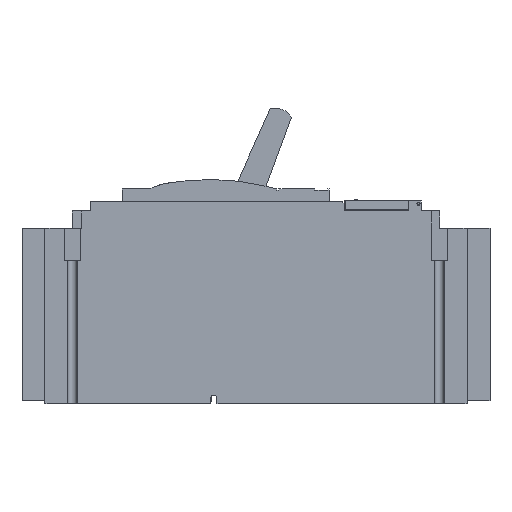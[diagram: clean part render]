
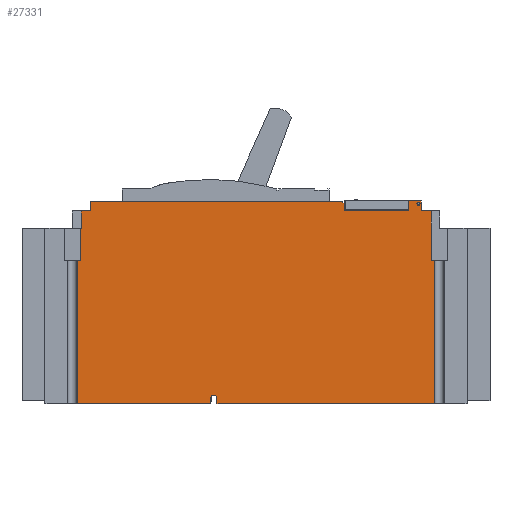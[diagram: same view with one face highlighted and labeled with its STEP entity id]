
A CAD part, left-side view. The second image highlights one B-rep face of the part: STEP entity #27331.
In plain terms, the highlighted planar face has unit normal (-1, 0, 0).
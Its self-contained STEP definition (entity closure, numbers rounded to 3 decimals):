
#65=CARTESIAN_POINT('',(0.,38.957,109.065));
#66=DIRECTION('',(1.,0.,0.));
#67=DIRECTION('',(0.,-1.,0.));
#68=AXIS2_PLACEMENT_3D('',#65,#66,#67);
#74=CARTESIAN_POINT('',(0.,38.957,109.065));
#75=DIRECTION('',(1.,0.,0.));
#76=DIRECTION('',(0.,1.,0.));
#77=AXIS2_PLACEMENT_3D('',#74,#75,#76);
#152=DIRECTION('',(0.,-1.,0.));
#153=VECTOR('',#152,35.293);
#154=CARTESIAN_POINT('',(0.,79.5,105.115));
#155=LINE('',#154,#153);
#159=DIRECTION('',(0.,0.,-1.));
#160=VECTOR('',#159,5.4);
#161=CARTESIAN_POINT('',(0.,44.207,110.515));
#162=LINE('',#161,#160);
#166=DIRECTION('',(0.,1.,0.));
#167=VECTOR('',#166,6.7);
#168=CARTESIAN_POINT('',(0.,37.507,110.515));
#169=LINE('',#168,#167);
#173=DIRECTION('',(0.,0.,1.));
#174=VECTOR('',#173,5.4);
#175=CARTESIAN_POINT('',(0.,37.507,105.115));
#176=LINE('',#175,#174);
#180=DIRECTION('',(0.,-1.,0.));
#181=VECTOR('',#180,5.5);
#182=CARTESIAN_POINT('',(0.,37.507,105.115));
#183=LINE('',#182,#181);
#187=DIRECTION('',(0.,0.,-1.));
#188=VECTOR('',#187,27.);
#189=CARTESIAN_POINT('',(0.,32.007,105.115));
#190=LINE('',#189,#188);
#194=DIRECTION('',(0.,-1.,0.));
#195=VECTOR('',#194,1.962);
#196=CARTESIAN_POINT('',(0.,32.007,78.115));
#197=LINE('',#196,#195);
#201=DIRECTION('',(0.,0.,-1.));
#202=VECTOR('',#201,78.05);
#203=CARTESIAN_POINT('',(0.,30.046,78.115));
#204=LINE('',#203,#202);
#208=DIRECTION('',(0.,1.,0.));
#209=VECTOR('',#208,118.704);
#210=CARTESIAN_POINT('',(0.,30.046,0.065));
#211=LINE('',#210,#209);
#215=DIRECTION('',(0.,0.,1.));
#216=VECTOR('',#215,2.918);
#217=CARTESIAN_POINT('',(0.,148.75,0.065));
#218=LINE('',#217,#216);
#222=DIRECTION('',(0.,0.,1.));
#223=VECTOR('',#222,2.918);
#224=CARTESIAN_POINT('',(0.,152.25,0.065));
#225=LINE('',#224,#223);
#229=DIRECTION('',(0.,1.,0.));
#230=VECTOR('',#229,72.704);
#231=CARTESIAN_POINT('',(0.,152.25,0.065));
#232=LINE('',#231,#230);
#236=DIRECTION('',(0.,0.,1.));
#237=VECTOR('',#236,78.);
#238=CARTESIAN_POINT('',(0.,224.954,0.065));
#239=LINE('',#238,#237);
#243=DIRECTION('',(0.,-1.,0.));
#244=VECTOR('',#243,1.954);
#245=CARTESIAN_POINT('',(0.,224.954,78.065));
#246=LINE('',#245,#244);
#250=DIRECTION('',(0.,0.,1.));
#251=VECTOR('',#250,17.5);
#252=CARTESIAN_POINT('',(0.,223.,78.065));
#253=LINE('',#252,#251);
#257=DIRECTION('',(0.,-1.,0.));
#258=VECTOR('',#257,0.25);
#259=CARTESIAN_POINT('',(0.,223.,95.565));
#260=LINE('',#259,#258);
#264=DIRECTION('',(0.,0.,-1.));
#265=VECTOR('',#264,9.5);
#266=CARTESIAN_POINT('',(0.,222.75,105.065));
#267=LINE('',#266,#265);
#271=DIRECTION('',(0.,-1.,0.));
#272=VECTOR('',#271,5.25);
#273=CARTESIAN_POINT('',(0.,222.75,105.065));
#274=LINE('',#273,#272);
#278=DIRECTION('',(0.,0.,1.));
#279=VECTOR('',#278,5.);
#280=CARTESIAN_POINT('',(0.,217.5,105.065));
#281=LINE('',#280,#279);
#285=DIRECTION('',(0.,-1.,0.));
#286=VECTOR('',#285,137.4);
#287=CARTESIAN_POINT('',(0.,217.5,110.065));
#288=LINE('',#287,#286);
#292=DIRECTION('',(0.,0.,-1.));
#293=VECTOR('',#292,0.6);
#294=CARTESIAN_POINT('',(0.,80.1,110.065));
#295=LINE('',#294,#293);
#299=DIRECTION('',(0.,-1.,0.));
#300=VECTOR('',#299,0.6);
#301=CARTESIAN_POINT('',(0.,80.1,109.465));
#302=LINE('',#301,#300);
#306=DIRECTION('',(0.,0.,-1.));
#307=VECTOR('',#306,4.35);
#308=CARTESIAN_POINT('',(0.,79.5,109.465));
#309=LINE('',#308,#307);
#11082=CARTESIAN_POINT('',(0.,150.5,2.983));
#11083=DIRECTION('',(1.,0.,0.));
#11084=DIRECTION('',(0.,1.,0.));
#11085=AXIS2_PLACEMENT_3D('',#11082,#11083,#11084);
#23030=CARTESIAN_POINT('',(0.,217.5,105.065));
#23031=CARTESIAN_POINT('',(0.,217.5,110.065));
#23032=VERTEX_POINT('',#23030);
#23033=VERTEX_POINT('',#23031);
#23034=CARTESIAN_POINT('',(0.,80.1,110.065));
#23035=VERTEX_POINT('',#23034);
#23036=CARTESIAN_POINT('',(0.,80.1,109.465));
#23037=VERTEX_POINT('',#23036);
#23038=CARTESIAN_POINT('',(0.,79.5,109.465));
#23039=VERTEX_POINT('',#23038);
#23040=CARTESIAN_POINT('',(0.,79.5,105.115));
#23041=VERTEX_POINT('',#23040);
#23931=CARTESIAN_POINT('',(0.,224.954,0.065));
#23932=VERTEX_POINT('',#23931);
#23963=CARTESIAN_POINT('',(0.,30.046,0.065));
#23964=VERTEX_POINT('',#23963);
#23979=CARTESIAN_POINT('',(0.,224.954,78.065));
#23980=CARTESIAN_POINT('',(0.,223.,78.065));
#23981=VERTEX_POINT('',#23979);
#23982=VERTEX_POINT('',#23980);
#23985=CARTESIAN_POINT('',(0.,32.007,78.115));
#23986=CARTESIAN_POINT('',(0.,30.046,78.115));
#23987=VERTEX_POINT('',#23985);
#23988=VERTEX_POINT('',#23986);
#23995=CARTESIAN_POINT('',(0.,32.007,105.115));
#23996=VERTEX_POINT('',#23995);
#24007=CARTESIAN_POINT('',(0.,222.75,105.065));
#24008=CARTESIAN_POINT('',(0.,222.75,95.565));
#24009=VERTEX_POINT('',#24007);
#24010=VERTEX_POINT('',#24008);
#24011=CARTESIAN_POINT('',(0.,223.,95.565));
#24012=VERTEX_POINT('',#24011);
#25885=CARTESIAN_POINT('',(0.,152.25,2.983));
#25887=VERTEX_POINT('',#25885);
#25889=CARTESIAN_POINT('',(0.,148.75,2.983));
#25891=VERTEX_POINT('',#25889);
#25893=CARTESIAN_POINT('',(0.,148.75,0.065));
#25894=VERTEX_POINT('',#25893);
#25895=CARTESIAN_POINT('',(0.,152.25,0.065));
#25896=VERTEX_POINT('',#25895);
#25901=CARTESIAN_POINT('',(0.,37.507,110.515));
#25902=CARTESIAN_POINT('',(0.,44.207,110.515));
#25903=VERTEX_POINT('',#25901);
#25904=VERTEX_POINT('',#25902);
#25905=CARTESIAN_POINT('',(0.,38.132,109.065));
#25906=CARTESIAN_POINT('',(0.,39.782,109.065));
#25907=VERTEX_POINT('',#25905);
#25908=VERTEX_POINT('',#25906);
#25909=CARTESIAN_POINT('',(0.,44.207,105.115));
#25910=VERTEX_POINT('',#25909);
#25911=CARTESIAN_POINT('',(0.,37.507,105.115));
#25912=VERTEX_POINT('',#25911);
#27270=CARTESIAN_POINT('',(0.,0.,0.));
#27271=DIRECTION('',(1.,0.,0.));
#27272=DIRECTION('',(0.,0.,-1.));
#27273=AXIS2_PLACEMENT_3D('',#27270,#27271,#27272);
#27274=PLANE('',#27273);
#27276=ORIENTED_EDGE('',*,*,#27275,.T.);
#27278=ORIENTED_EDGE('',*,*,#27277,.F.);
#27280=ORIENTED_EDGE('',*,*,#27279,.F.);
#27282=ORIENTED_EDGE('',*,*,#27281,.F.);
#27284=ORIENTED_EDGE('',*,*,#27283,.T.);
#27286=ORIENTED_EDGE('',*,*,#27285,.T.);
#27288=ORIENTED_EDGE('',*,*,#27287,.T.);
#27290=ORIENTED_EDGE('',*,*,#27289,.T.);
#27292=ORIENTED_EDGE('',*,*,#27291,.T.);
#27294=ORIENTED_EDGE('',*,*,#27293,.T.);
#27296=ORIENTED_EDGE('',*,*,#27295,.F.);
#27298=ORIENTED_EDGE('',*,*,#27297,.F.);
#27300=ORIENTED_EDGE('',*,*,#27299,.T.);
#27302=ORIENTED_EDGE('',*,*,#27301,.T.);
#27304=ORIENTED_EDGE('',*,*,#27303,.T.);
#27306=ORIENTED_EDGE('',*,*,#27305,.T.);
#27308=ORIENTED_EDGE('',*,*,#27307,.T.);
#27310=ORIENTED_EDGE('',*,*,#27309,.F.);
#27312=ORIENTED_EDGE('',*,*,#27311,.T.);
#27314=ORIENTED_EDGE('',*,*,#27313,.T.);
#27316=ORIENTED_EDGE('',*,*,#27315,.T.);
#27318=ORIENTED_EDGE('',*,*,#27317,.T.);
#27320=ORIENTED_EDGE('',*,*,#27319,.T.);
#27322=ORIENTED_EDGE('',*,*,#27321,.T.);
#27323=EDGE_LOOP('',(#27276,#27278,#27280,#27282,#27284,#27286,#27288,#27290,
#27292,#27294,#27296,#27298,#27300,#27302,#27304,#27306,#27308,#27310,#27312,
#27314,#27316,#27318,#27320,#27322));
#27324=FACE_OUTER_BOUND('',#27323,.F.);
#27326=ORIENTED_EDGE('',*,*,#27325,.F.);
#27328=ORIENTED_EDGE('',*,*,#27327,.F.);
#27329=EDGE_LOOP('',(#27326,#27328));
#27330=FACE_BOUND('',#27329,.F.);
#69=CIRCLE('',#68,0.825);
#78=CIRCLE('',#77,0.825);
#11086=CIRCLE('',#11085,1.75);
#27275=EDGE_CURVE('',#23041,#25910,#155,.T.);
#27277=EDGE_CURVE('',#25904,#25910,#162,.T.);
#27279=EDGE_CURVE('',#25903,#25904,#169,.T.);
#27281=EDGE_CURVE('',#25912,#25903,#176,.T.);
#27283=EDGE_CURVE('',#25912,#23996,#183,.T.);
#27285=EDGE_CURVE('',#23996,#23987,#190,.T.);
#27287=EDGE_CURVE('',#23987,#23988,#197,.T.);
#27289=EDGE_CURVE('',#23988,#23964,#204,.T.);
#27291=EDGE_CURVE('',#23964,#25894,#211,.T.);
#27293=EDGE_CURVE('',#25894,#25891,#218,.T.);
#27295=EDGE_CURVE('',#25887,#25891,#11086,.T.);
#27297=EDGE_CURVE('',#25896,#25887,#225,.T.);
#27299=EDGE_CURVE('',#25896,#23932,#232,.T.);
#27301=EDGE_CURVE('',#23932,#23981,#239,.T.);
#27303=EDGE_CURVE('',#23981,#23982,#246,.T.);
#27305=EDGE_CURVE('',#23982,#24012,#253,.T.);
#27307=EDGE_CURVE('',#24012,#24010,#260,.T.);
#27309=EDGE_CURVE('',#24009,#24010,#267,.T.);
#27311=EDGE_CURVE('',#24009,#23032,#274,.T.);
#27313=EDGE_CURVE('',#23032,#23033,#281,.T.);
#27315=EDGE_CURVE('',#23033,#23035,#288,.T.);
#27317=EDGE_CURVE('',#23035,#23037,#295,.T.);
#27319=EDGE_CURVE('',#23037,#23039,#302,.T.);
#27321=EDGE_CURVE('',#23039,#23041,#309,.T.);
#27325=EDGE_CURVE('',#25907,#25908,#69,.T.);
#27327=EDGE_CURVE('',#25908,#25907,#78,.T.);
#27331=ADVANCED_FACE('',(#27324,#27330),#27274,.F.);
